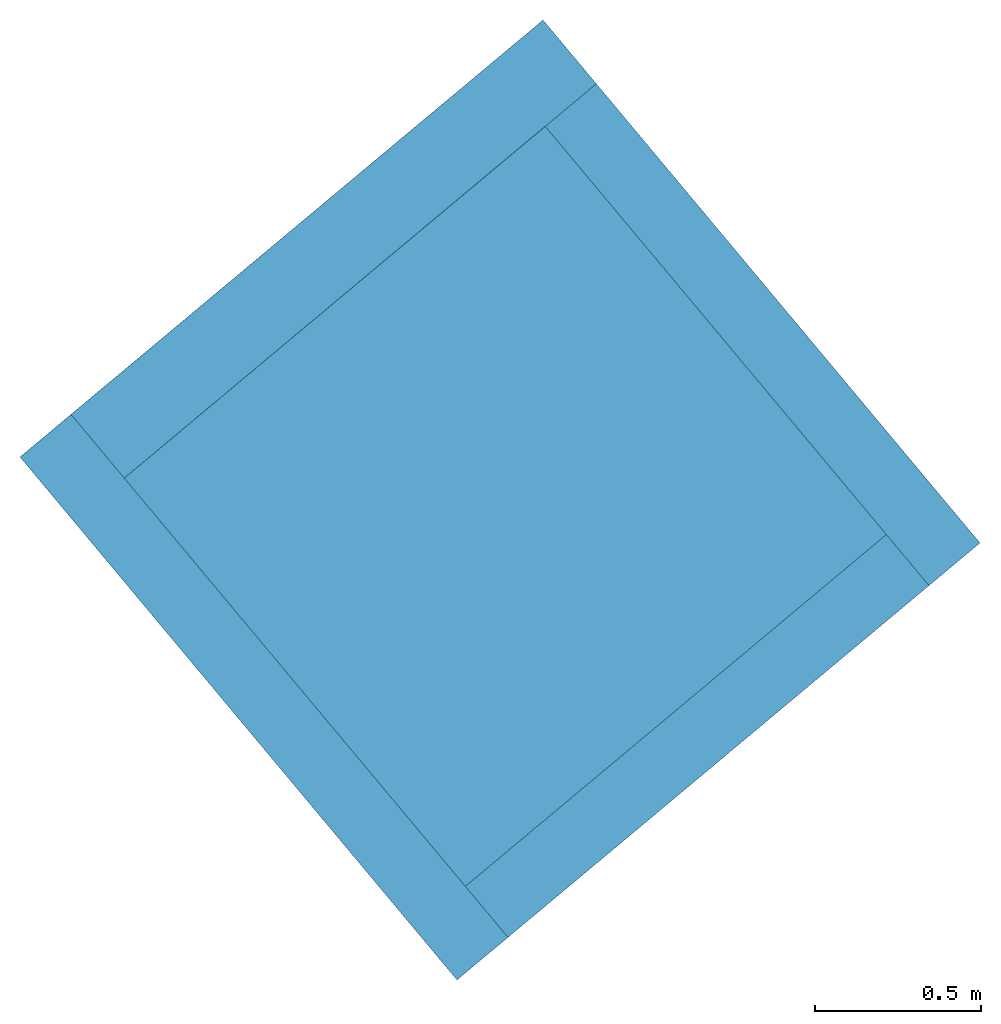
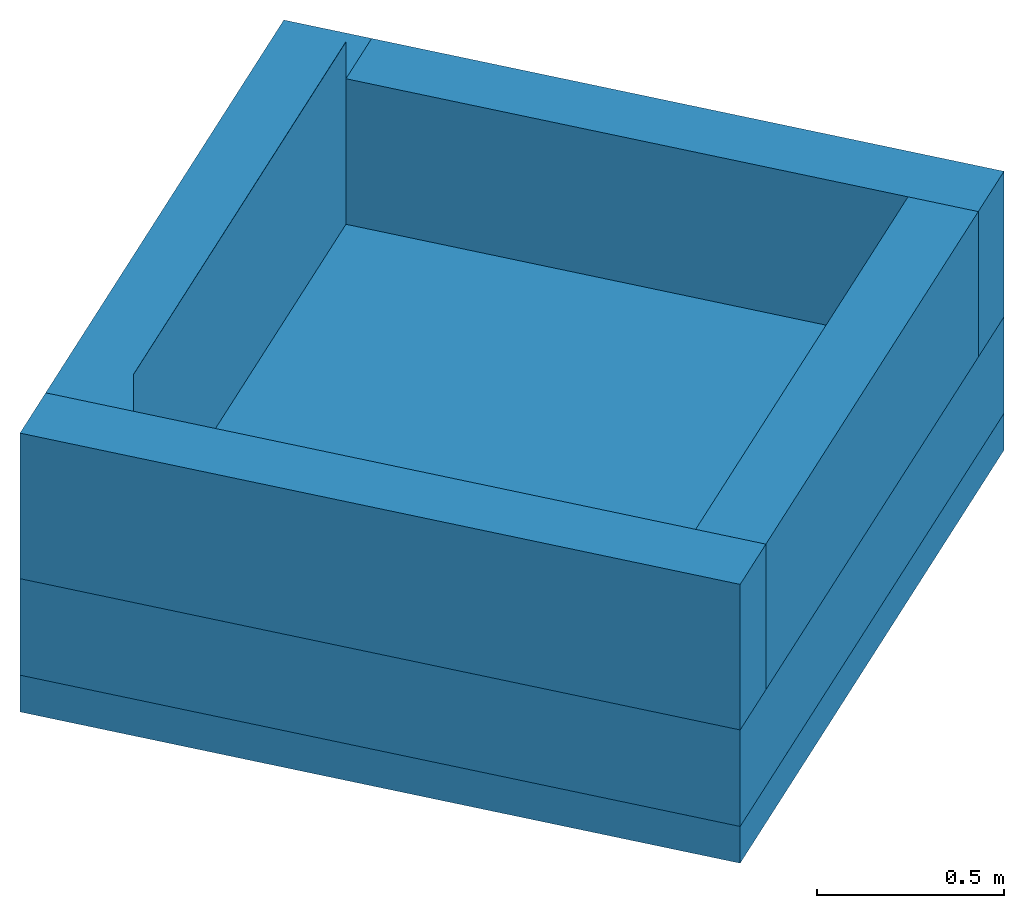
# One storey: 4 walls, 2 building element parts, 1 element without a shape of its own.
"""IFC4 building model written with IfcOpenShell, lengths in metres."""

from ifc_helpers import new_model, entity, si_unit, converted_unit, derived_unit, direction, frame, origin_with_axes, place, context, subcontext, project, spatial, polygons, material, type_object, element, aggregate, save


model = new_model("IFC4")

# Units and contexts
model_context = context("Model", 3, precision=1e-05, world=origin_with_axes(), true_north=direction((0.0, 1.0)))
body_context = subcontext(model_context, "Body", "Model", "MODEL_VIEW")
ifc_project = project(units=[si_unit("LENGTHUNIT", "METRE"), si_unit("AREAUNIT", "SQUARE_METRE"), si_unit("VOLUMEUNIT", "CUBIC_METRE"), converted_unit("PLANEANGLEUNIT", "DEGREE", entity("IfcPlaneAngleMeasure", 0.0174532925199), si_unit("PLANEANGLEUNIT", "RADIAN"), dimensions=[0, 0, 0, 0, 0, 0, 0]), converted_unit("TIMEUNIT", "Year", entity("IfcTimeMeasure", 31556926.0), si_unit("TIMEUNIT", "SECOND"), dimensions=[0, 0, 1, 0, 0, 0, 0]), si_unit("MASSUNIT", "GRAM", prefix="KILO"), si_unit("THERMODYNAMICTEMPERATUREUNIT", "DEGREE_CELSIUS"), si_unit("LUMINOUSINTENSITYUNIT", "LUMEN"), si_unit("ENERGYUNIT", "JOULE", prefix="MEGA"), derived_unit("THERMALCONDUCTANCEUNIT", [(si_unit("POWERUNIT", "WATT"), 1), (si_unit("LENGTHUNIT", "METRE"), -1), (si_unit("THERMODYNAMICTEMPERATUREUNIT", "KELVIN"), -1)]), derived_unit("SPECIFICHEATCAPACITYUNIT", [(si_unit("ENERGYUNIT", "JOULE"), 1), (si_unit("MASSUNIT", "GRAM", prefix="KILO"), -1), (si_unit("THERMODYNAMICTEMPERATUREUNIT", "KELVIN"), -1)]), derived_unit("MASSDENSITYUNIT", [(si_unit("MASSUNIT", "GRAM", prefix="KILO"), 1), (si_unit("VOLUMEUNIT", "CUBIC_METRE"), -1)])], contexts=[model_context])

# Site, building, storey
site_placement = place(None, frame((-0.00153261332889, -0.00661245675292, 0.0), z_axis=(0.0, 0.0, 1.0), x_axis=(1.0, 0.0, 0.0)))
site = spatial("IfcSite", under=ifc_project, at=site_placement, Name="Site", CompositionType="ELEMENT")
building_placement = place(site_placement, origin_with_axes())
building = spatial("IfcBuilding", under=site, at=building_placement, Name="Building", CompositionType="ELEMENT")
storey_placement = place(building_placement, frame((0.0, 0.0, -4.295), z_axis=(0.0, 0.0, 1.0), x_axis=(1.0, 0.0, 0.0)))
storey = spatial("IfcBuildingStorey", under=building, at=storey_placement, Name="UG2", CompositionType="ELEMENT", Elevation=-4.295)

# Walls
ifc_material_1 = material(Name="Stahlbeton Wand")
wall_type_1 = type_object("IfcWallType", Name="Stahlbeton Wand 250", PredefinedType="NOTDEFINED")
wall_1_placement = place(storey_placement, frame((0.182846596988, 25.8850517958, 0.0), z_axis=(0.0, 0.0, 1.0), x_axis=(0.767398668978, 0.641170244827, 0.0)))
element("IfcWall", 1, at=wall_1_placement, inside=storey, type_object=wall_type_1, material=ifc_material_1, Name="Wand-010", PredefinedType="NOTDEFINED", context=body_context, shape_type="Tessellation", body=[
    polygons([(2.05074752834, 0.25, 0.0), (2.05074752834, 0.25, 0.475), (2.05074752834, 0.0, 0.475), (2.05074752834, 0.0, 0.0), (0.199981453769, 0.25, 0.0), (0.199981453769, 0.25, 0.475), (1.85064579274, 0.000605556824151, 0.475), (1.85064582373, 0.0, 0.475), (0.199999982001, 0.000250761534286, 0.475), (1.85064582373, 0.0, 0.595), (0.199995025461, 0.0, 0.595), (0.199995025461, 0.0, 0.0), (0.199999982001, 0.000250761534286, 0.595), (1.85064579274, 0.000605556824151, 0.595)], [[[1, 2, 3, 4]], [[5, 6, 2, 1]], [[7, 8, 3, 2, 6, 9]], [[3, 8, 10, 11, 12, 4]], [[12, 5, 1, 4]], [[13, 9, 6, 5, 12, 11]], [[7, 14, 10, 8]], [[9, 13, 14, 7]], [[10, 14, 13, 11]]], closed=True),
])
wall_type_2 = type_object("IfcWallType", Name="Stahlbeton Wand 200", PredefinedType="NOTDEFINED")
wall_2_placement = place(storey_placement, frame((2.91104050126, 25.8183614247, 0.0), z_axis=(0.0, 0.0, 1.0), x_axis=(-0.641209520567, 0.767365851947, 0.0)))
element("IfcWall", 2, at=wall_2_placement, inside=storey, type_object=wall_type_2, material=ifc_material_1, Name="Wand-011", PredefinedType="NOTDEFINED", context=body_context, shape_type="Tessellation", body=[
    polygons([(1.80041485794, 0.0, 0.0), (1.80041485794, 0.0, 0.475), (0.0, 0.0, 0.475), (0.0, 0.0, 0.0), (1.80042509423, 0.2, 0.0), (1.80042509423, 0.2, 0.475), (0.0, 0.2, 0.475), (0.0, 0.2, 0.0)], [[[1, 2, 3, 4]], [[5, 6, 2, 1]], [[6, 7, 3, 2]], [[4, 3, 7, 8]], [[8, 5, 1, 4]], [[8, 7, 6, 5]]], closed=True),
])
wall_3_placement = place(storey_placement, frame((2.78279831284, 25.9718349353, 0.0), z_axis=(0.0, 0.0, 1.0), x_axis=(-0.76736443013, -0.641211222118, 0.0)))
element("IfcWall", 3, at=wall_3_placement, inside=storey, type_object=wall_type_2, material=ifc_material_1, Name="Wand-013", PredefinedType="NOTDEFINED", context=body_context, shape_type="Tessellation", body=[
    polygons([(0.2, 0.0, 0.0), (0.2, 0.0, 0.475), (0.20000044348, 0.2, 0.475), (0.20000044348, 0.2, 0.0), (1.85076034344, 0.0, 0.0), (1.85076034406, -3.66037022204e-06, 0.475), (1.85076016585, 0.2, 0.475), (1.85076016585, 0.2, 0.0)], [[[1, 2, 3, 4]], [[5, 6, 2, 1]], [[6, 7, 3, 2]], [[4, 3, 7, 8]], [[4, 8, 5, 1]], [[8, 7, 6, 5]]], closed=True),
])
wall_4_placement = place(storey_placement, frame((1.36258830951, 24.7851094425, 0.0), z_axis=(0.0, 0.0, 1.0), x_axis=(-0.641211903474, 0.767363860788, 0.0)))
element("IfcWall", 4, at=wall_4_placement, inside=storey, type_object=wall_type_2, material=ifc_material_1, Name="Wand-013", PredefinedType="NOTDEFINED", context=body_context, shape_type="Tessellation", body=[
    polygons([(1.8505095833, 0.0, 0.475), (1.60076034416, -4.97015251e-06, 0.475), (0.0, 6.18598505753e-10, 0.475), (-0.200003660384, 0.0, 0.475), (-0.200003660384, 0.0, 0.0), (1.8505095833, 0.0, 0.0), (1.8505095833, 0.2, 0.475), (-0.200003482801, 0.2, 0.475), (-0.200003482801, 0.2, 0.0), (1.8505095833, 0.2, 0.0)], [[[1, 2, 3, 4, 5, 6]], [[7, 8, 4, 3, 2, 1]], [[5, 4, 8, 9]], [[5, 9, 10, 6]], [[10, 7, 1, 6]], [[9, 8, 7, 10]]], closed=True),
])

# Slab, building element parts
slab_type = type_object("IfcSlabType", Name="EB 01 Bodenplatte Liftschacht 435", PredefinedType="NOTDEFINED")
slab_placement = place(storey_placement, frame((0.0229143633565, 26.0764357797, 0.0), z_axis=(0.0, 0.0, 1.0), x_axis=(1.0, 0.0, 0.0)))
slab = element("IfcSlab", 5, at=slab_placement, inside=storey, type_object=slab_type, Name="Decke-005", PredefinedType="NOTDEFINED")
ifc_material_2 = material(Name="WU-Beton")
building_element_part_1_placement = place(slab_placement, origin_with_axes())
building_element_part_1 = element("IfcBuildingElementPart", 6, at=building_element_part_1_placement, material=ifc_material_2, Name="WU-Beton", PredefinedType="NOTDEFINED", context=body_context, shape_type="Tessellation", body=[
    polygons([(1.31444267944, -1.57304141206, -0.315), (1.31444267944, -1.57304141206, 0.0), (0.0, 0.0, 0.0), (0.0, 0.0, -0.315), (2.88812585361, -0.258074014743, -0.315), (2.88812585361, -0.258074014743, 0.0), (1.57333983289, 1.31539278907, 0.0), (1.57333983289, 1.31539278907, -0.315)], [[[1, 2, 3, 4]], [[5, 6, 2, 1]], [[3, 2, 6, 7]], [[4, 3, 7, 8]], [[4, 8, 5, 1]], [[8, 7, 6, 5]]], closed=True),
])
ifc_material_3 = material(Name="Stampfbeton")
building_element_part_2_placement = place(slab_placement, origin_with_axes())
building_element_part_2 = element("IfcBuildingElementPart", 7, at=building_element_part_2_placement, material=ifc_material_3, Name="Stampfbeton", PredefinedType="NOTDEFINED", context=body_context, shape_type="Tessellation", body=[
    polygons([(0.0, 0.0, -0.435), (1.31444267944, -1.57304141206, -0.435), (1.31444267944, -1.57304141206, -0.315), (0.0, 0.0, -0.315), (1.57333983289, 1.31539278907, -0.435), (2.88812585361, -0.258074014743, -0.435), (2.88812585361, -0.258074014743, -0.315), (1.57333983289, 1.31539278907, -0.315)], [[[1, 2, 3, 4]], [[1, 5, 6, 2]], [[2, 6, 7, 3]], [[4, 3, 7, 8]], [[5, 1, 4, 8]], [[6, 5, 8, 7]]], closed=True),
])
aggregate(slab, [building_element_part_1, building_element_part_2])

save(model, "model.ifc")
